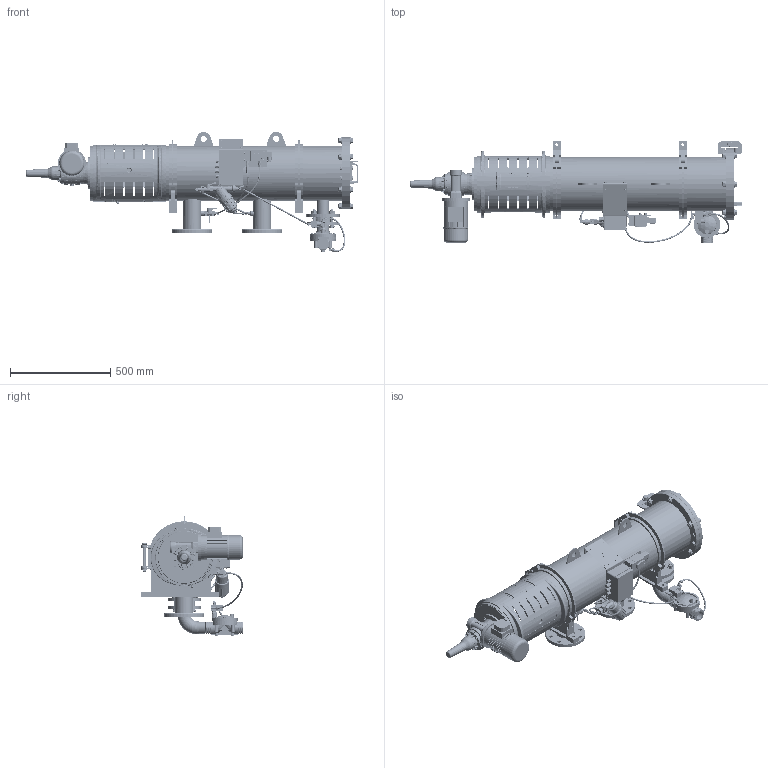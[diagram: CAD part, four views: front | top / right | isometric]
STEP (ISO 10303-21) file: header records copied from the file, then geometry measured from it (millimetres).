
FILE_DESCRIPTION (( 'STEP AP214' ), '1' );
FILE_NAME ('041041-000030with clamp.STEP', '2023-01-17T07:02:46', ( '' ), ( '' ), 'SwSTEP 2.0', 'SolidWorks 2019', '' );
FILE_SCHEMA (( 'AUTOMOTIVE_DESIGN' ));
Length unit declared in the file: millimetre
Products named in the file (1): 041041-000030with clamp
Bounding box: 1658.82 x 513.8 x 600.48 mm (x, y, z)
Volume: 23021087.7 mm3; surface area: 5983914.8 mm2
Topology: 272 solids, 277 shells, 17939 faces, 43359 edges, 26212 vertices
Faces by surface type: plane 8319, bspline 3187, cylinder 3031, cone 1635, torus 1397, sphere 370
Full cylindrical faces by diameter (mm): 1.2 x10, 2 x2, 2.381 x2, 2.4 x4, 3 x6, 3.5 x5, 3.9 x2, 4 x21, 4.134 x4, 4.166 x2, 4.2 x1, 4.4 x2, 4.7 x2, 4.75 x12, 4.763 x2, 4.773 x6, 4.917 x2, 4.971 x4, 5 x19, 5.7 x9, 6 x43, 6.2 x3, 6.5 x14, 6.6 x3, 6.858 x2, 7 x13, 7.137 x21, 7.187 x1, 7.5 x2, 7.95 x10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
Entity records: 925428 total; most frequent: CARTESIAN_POINT 349968, ORIENTED_EDGE 81000, DIRECTION 71172, EDGE_CURVE 40500, AXIS2_PLACEMENT_3D 27511, VERTEX_POINT 25689, EDGE_LOOP 21259, FACE_OUTER_BOUND 19061
